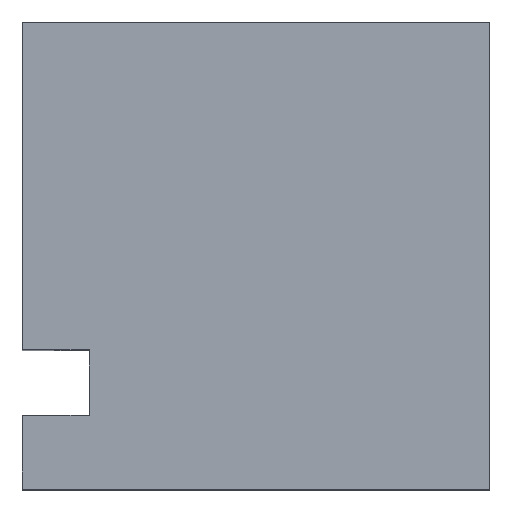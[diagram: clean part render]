
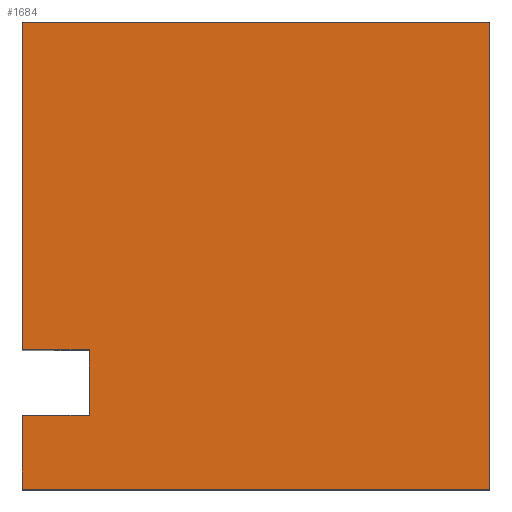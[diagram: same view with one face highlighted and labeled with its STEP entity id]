
A CAD part, top view. The second image highlights one B-rep face of the part: STEP entity #1684.
In plain terms, the highlighted planar face has unit normal (0, 0, 1).
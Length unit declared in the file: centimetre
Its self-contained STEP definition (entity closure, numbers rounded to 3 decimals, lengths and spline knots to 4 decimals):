
#40 = EDGE_CURVE ( 'NONE', #1428, #1017, #2087, .T. ) ;
#69 = EDGE_CURVE ( 'NONE', #1265, #1428, #1379, .T. ) ;
#76 = VERTEX_POINT ( 'NONE', #1400 ) ;
#95 = EDGE_LOOP ( 'NONE', ( #1517, #2114, #1342, #1854, #1189, #1691, #2156, #1302 ) ) ;
#214 = VERTEX_POINT ( 'NONE', #1568 ) ;
#252 = FACE_OUTER_BOUND ( 'NONE', #95, .T. ) ;
#268 = CARTESIAN_POINT ( 'NONE',  ( 1000., 0., 1000. ) ) ;
#310 = LINE ( 'NONE', #1216, #1824 ) ;
#347 = VECTOR ( 'NONE', #1944, 100. ) ;
#412 = CARTESIAN_POINT ( 'NONE',  ( 0., 298.1953, 1000. ) ) ;
#497 = LINE ( 'NONE', #1541, #1088 ) ;
#527 = CARTESIAN_POINT ( 'NONE',  ( 0., 0., 1000. ) ) ;
#548 = AXIS2_PLACEMENT_3D ( 'NONE', #1857, #1328, #609 ) ;
#601 = DIRECTION ( 'NONE',  ( 0., 1., 0. ) ) ;
#609 = DIRECTION ( 'NONE',  ( 1., 0., 0. ) ) ;
#750 = CARTESIAN_POINT ( 'NONE',  ( 143.0374, 157.9196, 1000. ) ) ;
#795 = VECTOR ( 'NONE', #601, 100. ) ;
#888 = CARTESIAN_POINT ( 'NONE',  ( 1000., 1000., 1000. ) ) ;
#893 = LINE ( 'NONE', #1421, #347 ) ;
#896 = VECTOR ( 'NONE', #1922, 100. ) ;
#900 = EDGE_CURVE ( 'NONE', #1888, #1803, #1626, .T. ) ;
#941 = VECTOR ( 'NONE', #1878, 100. ) ;
#989 = PLANE ( 'NONE',  #548 ) ;
#999 = EDGE_CURVE ( 'NONE', #76, #1164, #497, .T. ) ;
#1017 = VERTEX_POINT ( 'NONE', #1215 ) ;
#1047 = CARTESIAN_POINT ( 'NONE',  ( 1000., 1000., 1000. ) ) ;
#1056 = CARTESIAN_POINT ( 'NONE',  ( 0., 1000., 1000. ) ) ;
#1088 = VECTOR ( 'NONE', #1377, 100. ) ;
#1164 = VERTEX_POINT ( 'NONE', #527 ) ;
#1169 = EDGE_CURVE ( 'NONE', #214, #1888, #1226, .T. ) ;
#1189 = ORIENTED_EDGE ( 'NONE', *, *, #1405, .T. ) ;
#1190 = DIRECTION ( 'NONE',  ( 1., 0., 0. ) ) ;
#1215 = CARTESIAN_POINT ( 'NONE',  ( 0., 1000., 1000. ) ) ;
#1216 = CARTESIAN_POINT ( 'NONE',  ( 0., 157.9196, 1000. ) ) ;
#1226 = LINE ( 'NONE', #750, #795 ) ;
#1265 = VERTEX_POINT ( 'NONE', #268 ) ;
#1302 = ORIENTED_EDGE ( 'NONE', *, *, #2095, .T. ) ;
#1328 = DIRECTION ( 'NONE',  ( 0., 0., 1. ) ) ;
#1342 = ORIENTED_EDGE ( 'NONE', *, *, #1952, .F. ) ;
#1377 = DIRECTION ( 'NONE',  ( 0., -1., 0. ) ) ;
#1379 = LINE ( 'NONE', #1047, #1736 ) ;
#1400 = CARTESIAN_POINT ( 'NONE',  ( 0., 157.9196, 1000. ) ) ;
#1405 = EDGE_CURVE ( 'NONE', #1164, #1265, #1757, .T. ) ;
#1421 = CARTESIAN_POINT ( 'NONE',  ( 0., 1000., 1000. ) ) ;
#1428 = VERTEX_POINT ( 'NONE', #888 ) ;
#1477 = CARTESIAN_POINT ( 'NONE',  ( 0., 298.1953, 1000. ) ) ;
#1517 = ORIENTED_EDGE ( 'NONE', *, *, #900, .F. ) ;
#1541 = CARTESIAN_POINT ( 'NONE',  ( 0., 1000., 1000. ) ) ;
#1568 = CARTESIAN_POINT ( 'NONE',  ( 143.0374, 157.9196, 1000. ) ) ;
#1626 = LINE ( 'NONE', #412, #941 ) ;
#1684 = ADVANCED_FACE ( 'NONE', ( #252 ), #989, .T. ) ;
#1691 = ORIENTED_EDGE ( 'NONE', *, *, #69, .T. ) ;
#1736 = VECTOR ( 'NONE', #1743, 100. ) ;
#1743 = DIRECTION ( 'NONE',  ( 0., 1., 0. ) ) ;
#1757 = LINE ( 'NONE', #2059, #2228 ) ;
#1803 = VERTEX_POINT ( 'NONE', #1477 ) ;
#1806 = CARTESIAN_POINT ( 'NONE',  ( 143.0374, 298.1953, 1000. ) ) ;
#1824 = VECTOR ( 'NONE', #1902, 100. ) ;
#1854 = ORIENTED_EDGE ( 'NONE', *, *, #999, .T. ) ;
#1857 = CARTESIAN_POINT ( 'NONE',  ( 0., 0., 1000. ) ) ;
#1878 = DIRECTION ( 'NONE',  ( -1., 0., 0. ) ) ;
#1888 = VERTEX_POINT ( 'NONE', #1806 ) ;
#1902 = DIRECTION ( 'NONE',  ( 1., 0., 0. ) ) ;
#1922 = DIRECTION ( 'NONE',  ( -1., 0., 0. ) ) ;
#1944 = DIRECTION ( 'NONE',  ( 0., -1., 0. ) ) ;
#1952 = EDGE_CURVE ( 'NONE', #76, #214, #310, .T. ) ;
#2059 = CARTESIAN_POINT ( 'NONE',  ( 0., 0., 1000. ) ) ;
#2087 = LINE ( 'NONE', #1056, #896 ) ;
#2095 = EDGE_CURVE ( 'NONE', #1017, #1803, #893, .T. ) ;
#2114 = ORIENTED_EDGE ( 'NONE', *, *, #1169, .F. ) ;
#2156 = ORIENTED_EDGE ( 'NONE', *, *, #40, .T. ) ;
#2228 = VECTOR ( 'NONE', #1190, 100. ) ;
